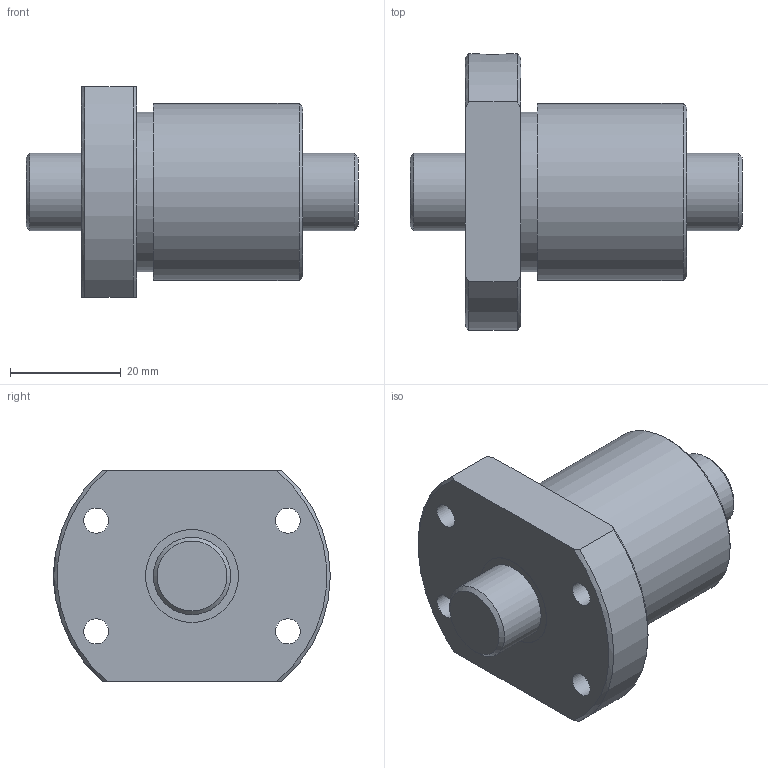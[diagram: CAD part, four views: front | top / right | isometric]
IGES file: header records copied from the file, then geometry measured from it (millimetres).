
Start section: Data from Parasolid IGES Translator 26.0.171, Copyright(c) 2006 Siemens PLM Software. All Rights Reserved.
Global section: file name: BTK1405V-2.6ZZ+60LC7T_000.igs; native system: By Siemens PLM Incorporated; preprocessor: XPlus GENERIC/IGES 26.0.171; author: Noname; organization: Noname; date: 20250116.075548; units: millimetre
Bounding box: 60 x 50 x 38 mm (x, y, z)
Surface area: 13132.1 mm2 (no closed solid volume)
Topology: 0 solids, 0 shells, 31 faces, 142 edges, 127 vertices
Faces by surface type: revolution 21, extrusion 10
